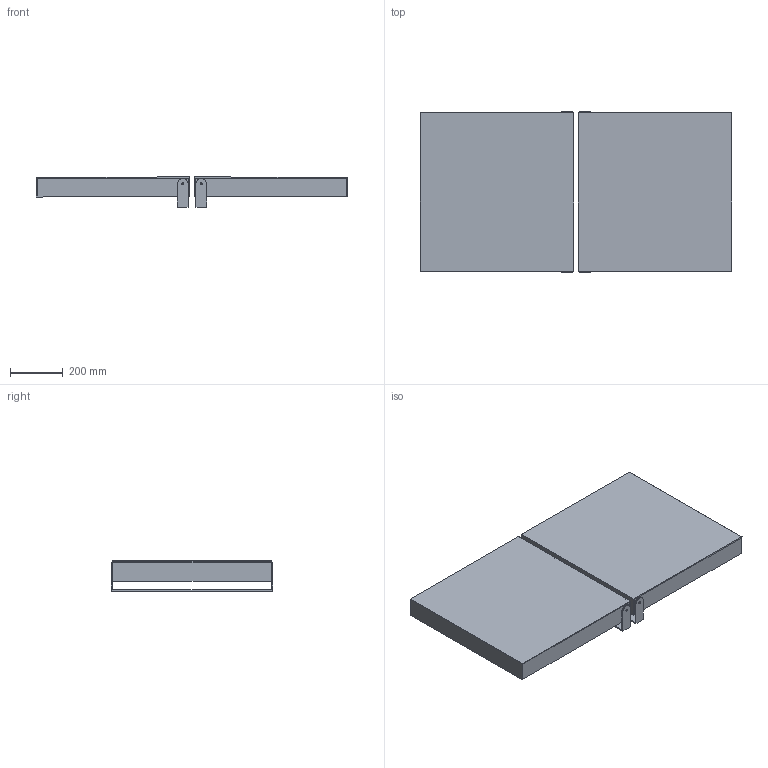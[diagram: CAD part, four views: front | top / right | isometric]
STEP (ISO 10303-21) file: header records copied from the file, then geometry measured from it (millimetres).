
FILE_DESCRIPTION (( 'STEP AP203' ), '1' );
FILE_NAME ('MB 60D.STEP', '2019-02-01T14:28:21', ( '' ), ( '' ), 'SwSTEP 2.0', 'SolidWorks 2019', '' );
FILE_SCHEMA (( 'CONFIG_CONTROL_DESIGN' ));
Length unit declared in the file: millimetre
Products named in the file (4): ATTACCO A PARETE; SCOCCA MIRROR BOOK SINGOLO 58; MB 60D; SPECCHIO MIRROR BOOK SINGOLO 58
Assembly tree (6 placements, depth 2):
  MB 60D
    ATTACCO A PARETE  x2
    SCOCCA MIRROR BOOK SINGOLO 58  x2
    SPECCHIO MIRROR BOOK SINGOLO 58  x2
Bounding box: 1178.08 x 612 x 114.04 mm (x, y, z)
Volume: 10540227 mm3; surface area: 4345584.8 mm2
Topology: 8 solids, 8 shells, 114 faces, 288 edges, 192 vertices
Faces by surface type: plane 90, cylinder 24
Entity records: 2230 total; most frequent: CARTESIAN_POINT 306, DIRECTION 300, ORIENTED_EDGE 288, EDGE_CURVE 144, LINE 120, VECTOR 120, VERTEX_POINT 96, AXIS2_PLACEMENT_3D 90
